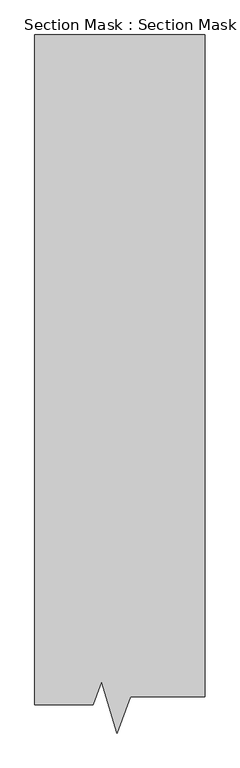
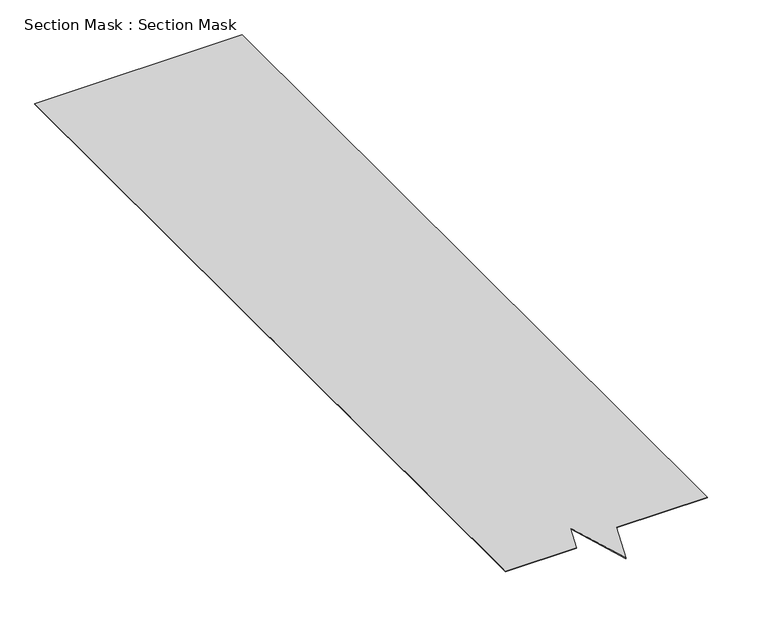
"""IFC4 building model written with IfcOpenShell, lengths in millimetres: proxy geometry, Section Mask : Section Mask."""

from ifc_helpers import new_model, si_unit, frame, origin, place, context, project, spatial, polyline, outline, extrude, source, transform, mapped, element, save


def section_mask_section_mask_0c550b42(model_context):
    return source(origin(), model_context, "Body", "SweptSolid", [
        extrude(outline(polyline([(8023.064325, 885.273934), (7863.1843793, 885.273934), (7863.1843793, 2719.4614947), (8329.8683257, 2719.4614947), (8329.8683257, 906.1224056), (8125.6982256, 906.1224056), (8089.0813689, 806.9595639), (8046.0812645, 947.6065681), (8023.064325, 885.273934)])), frame((0.0, 0.0, 45.0273345), z_axis=(0.0, 0.0, 1.0), x_axis=(1.0, 0.0, 0.0)), (0.0, 0.0, 1.0), 1.469501),
    ])


if __name__ == "__main__":
    model = new_model("IFC4")
    model_context = context("Model", 3, world=origin())
    ifc_project = project(units=[si_unit("LENGTHUNIT", "METRE", prefix="MILLI")], contexts=[model_context])
    site = spatial("IfcSite", under=ifc_project)
    building = spatial("IfcBuilding", under=site)
    placement = place(None, origin())
    section_mask_section_mask_shape = section_mask_section_mask_0c550b42(model_context)
    element("IfcBuildingElementProxy", 1, Name="Section Mask : Section Mask", ObjectType="Section Mask : Section Mask", at=placement, inside=building, context=model_context, shape_type="MappedRepresentation", body=[
        mapped(section_mask_section_mask_shape, transform((0.0, 0.0, 0.0), x_axis=(1.0, 0.0, 0.0), y_axis=(0.0, 1.0, 0.0), z_axis=(0.0, 0.0, 1.0))),
    ])
    save(model, "model.ifc")
